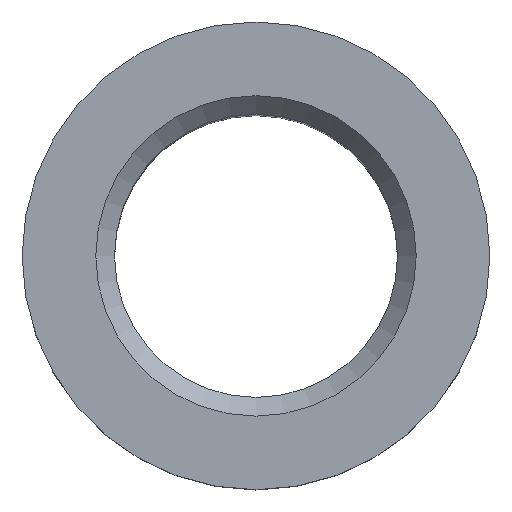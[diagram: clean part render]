
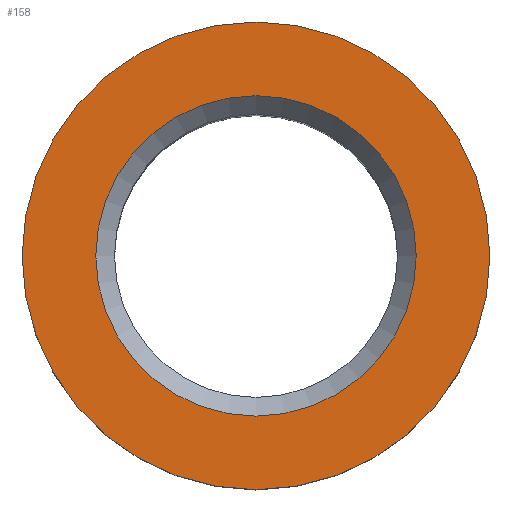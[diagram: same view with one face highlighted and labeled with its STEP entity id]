
A CAD part, top view. The second image highlights one B-rep face of the part: STEP entity #158.
In plain terms, the highlighted planar face has unit normal (0, 0, 1).
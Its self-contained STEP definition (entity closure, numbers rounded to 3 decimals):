
#17=FACE_BOUND('',#44,.T.);
#20=PLANE('',#199);
#31=FACE_OUTER_BOUND('',#43,.T.);
#43=EDGE_LOOP('',(#135));
#44=EDGE_LOOP('',(#136));
#64=CIRCLE('',#186,5.);
#71=CIRCLE('',#198,3.425);
#77=VERTEX_POINT('',#269);
#84=VERTEX_POINT('',#291);
#91=EDGE_CURVE('',#77,#77,#64,.T.);
#101=EDGE_CURVE('',#84,#84,#71,.T.);
#135=ORIENTED_EDGE('',*,*,#91,.T.);
#136=ORIENTED_EDGE('',*,*,#101,.F.);
#158=ADVANCED_FACE('',(#31,#17),#20,.T.);
#186=AXIS2_PLACEMENT_3D('',#270,#217,#218);
#198=AXIS2_PLACEMENT_3D('',#292,#244,#245);
#199=AXIS2_PLACEMENT_3D('',#294,#247,#248);
#217=DIRECTION('center_axis',(0.,0.,1.));
#218=DIRECTION('ref_axis',(1.,0.,0.));
#244=DIRECTION('center_axis',(0.,0.,1.));
#245=DIRECTION('ref_axis',(-1.,0.,0.));
#247=DIRECTION('center_axis',(0.,0.,1.));
#248=DIRECTION('ref_axis',(1.,0.,0.));
#269=CARTESIAN_POINT('',(0.,5.,16.));
#270=CARTESIAN_POINT('Origin',(0.,0.,16.));
#291=CARTESIAN_POINT('',(3.425,0.,16.));
#292=CARTESIAN_POINT('Origin',(0.,0.,16.));
#294=CARTESIAN_POINT('Origin',(0.,0.,16.));
